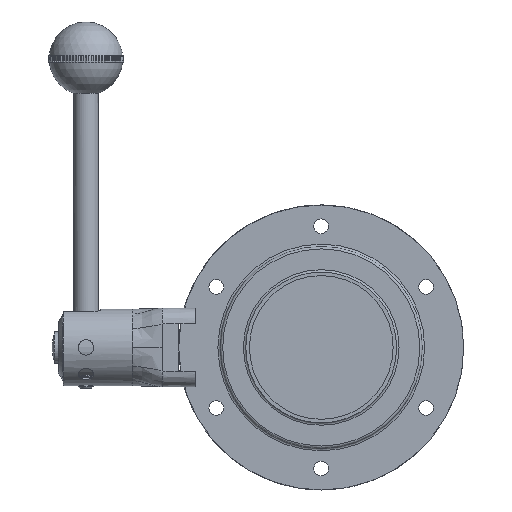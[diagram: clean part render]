
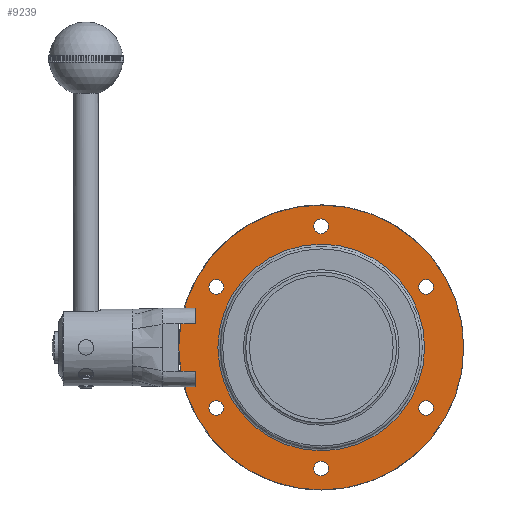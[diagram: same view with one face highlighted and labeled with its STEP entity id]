
A CAD part, left-side view. The second image highlights one B-rep face of the part: STEP entity #9239.
In plain terms, the highlighted planar face has unit normal (-1, 0, 0) as drawn and (1, 0, 0) by its records, which use the part's own axes.
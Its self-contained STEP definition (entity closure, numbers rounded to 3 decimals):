
#1457=FACE_BOUND('',#2609,.T.);
#1458=FACE_BOUND('',#2610,.T.);
#1459=FACE_BOUND('',#2611,.T.);
#1460=FACE_BOUND('',#2612,.T.);
#1461=FACE_BOUND('',#2613,.T.);
#1462=FACE_BOUND('',#2614,.T.);
#1463=FACE_BOUND('',#2615,.T.);
#1985=FACE_OUTER_BOUND('',#2608,.T.);
#2608=EDGE_LOOP('',(#7930));
#2609=EDGE_LOOP('',(#7931));
#2610=EDGE_LOOP('',(#7932));
#2611=EDGE_LOOP('',(#7933));
#2612=EDGE_LOOP('',(#7934));
#2613=EDGE_LOOP('',(#7935));
#2614=EDGE_LOOP('',(#7936));
#2615=EDGE_LOOP('',(#7937));
#3179=CIRCLE('',#10360,60.);
#3190=CIRCLE('',#10375,3.1);
#3191=CIRCLE('',#10377,3.1);
#3192=CIRCLE('',#10379,3.1);
#3193=CIRCLE('',#10381,3.1);
#3194=CIRCLE('',#10383,3.1);
#3195=CIRCLE('',#10385,3.1);
#3196=CIRCLE('',#10387,43.5);
#4043=VERTEX_POINT('',#26582);
#4052=VERTEX_POINT('',#26607);
#4053=VERTEX_POINT('',#26611);
#4054=VERTEX_POINT('',#26615);
#4055=VERTEX_POINT('',#26619);
#4056=VERTEX_POINT('',#26623);
#4057=VERTEX_POINT('',#26627);
#4058=VERTEX_POINT('',#26631);
#5329=EDGE_CURVE('',#4043,#4043,#3179,.T.);
#5342=EDGE_CURVE('',#4052,#4052,#3190,.T.);
#5344=EDGE_CURVE('',#4053,#4053,#3191,.T.);
#5346=EDGE_CURVE('',#4054,#4054,#3192,.T.);
#5348=EDGE_CURVE('',#4055,#4055,#3193,.T.);
#5350=EDGE_CURVE('',#4056,#4056,#3194,.T.);
#5352=EDGE_CURVE('',#4057,#4057,#3195,.T.);
#5353=EDGE_CURVE('',#4058,#4058,#3196,.T.);
#7930=ORIENTED_EDGE('',*,*,#5329,.T.);
#7931=ORIENTED_EDGE('',*,*,#5342,.T.);
#7932=ORIENTED_EDGE('',*,*,#5344,.T.);
#7933=ORIENTED_EDGE('',*,*,#5346,.T.);
#7934=ORIENTED_EDGE('',*,*,#5348,.T.);
#7935=ORIENTED_EDGE('',*,*,#5350,.T.);
#7936=ORIENTED_EDGE('',*,*,#5352,.T.);
#7937=ORIENTED_EDGE('',*,*,#5353,.F.);
#8317=PLANE('',#10386);
#9239=ADVANCED_FACE('',(#1985,#1457,#1458,#1459,#1460,#1461,#1462,#1463),
#8317,.T.);
#10360=AXIS2_PLACEMENT_3D('',#26583,#12892,#12893);
#10375=AXIS2_PLACEMENT_3D('',#26609,#12924,#12925);
#10377=AXIS2_PLACEMENT_3D('',#26613,#12929,#12930);
#10379=AXIS2_PLACEMENT_3D('',#26617,#12934,#12935);
#10381=AXIS2_PLACEMENT_3D('',#26621,#12939,#12940);
#10383=AXIS2_PLACEMENT_3D('',#26625,#12944,#12945);
#10385=AXIS2_PLACEMENT_3D('',#26629,#12949,#12950);
#10386=AXIS2_PLACEMENT_3D('',#26630,#12951,#12952);
#10387=AXIS2_PLACEMENT_3D('',#26632,#12953,#12954);
#12892=DIRECTION('center_axis',(1.,0.,0.));
#12893=DIRECTION('ref_axis',(0.,0.,-1.));
#12924=DIRECTION('center_axis',(-1.,0.,0.));
#12925=DIRECTION('ref_axis',(0.,0.866,0.5));
#12929=DIRECTION('center_axis',(-1.,0.,0.));
#12930=DIRECTION('ref_axis',(0.,0.866,-0.5));
#12934=DIRECTION('center_axis',(-1.,0.,0.));
#12935=DIRECTION('ref_axis',(0.,0.,-1.));
#12939=DIRECTION('center_axis',(-1.,0.,0.));
#12940=DIRECTION('ref_axis',(0.,-0.866,-0.5));
#12944=DIRECTION('center_axis',(-1.,0.,0.));
#12945=DIRECTION('ref_axis',(0.,-0.866,0.5));
#12949=DIRECTION('center_axis',(-1.,0.,0.));
#12950=DIRECTION('ref_axis',(0.,0.,1.));
#12951=DIRECTION('center_axis',(1.,0.,0.));
#12952=DIRECTION('ref_axis',(0.,0.,-1.));
#12953=DIRECTION('center_axis',(1.,0.,0.));
#12954=DIRECTION('ref_axis',(0.,0.,-1.));
#26582=CARTESIAN_POINT('',(10.,-60.,0.));
#26583=CARTESIAN_POINT('Origin',(10.,0.,0.));
#26607=CARTESIAN_POINT('',(10.,41.483,23.95));
#26609=CARTESIAN_POINT('Origin',(10.,44.167,25.5));
#26611=CARTESIAN_POINT('',(10.,41.483,-23.95));
#26613=CARTESIAN_POINT('Origin',(10.,44.167,-25.5));
#26615=CARTESIAN_POINT('',(10.,0.,-47.9));
#26617=CARTESIAN_POINT('Origin',(10.,0.,-51.));
#26619=CARTESIAN_POINT('',(10.,-41.483,-23.95));
#26621=CARTESIAN_POINT('Origin',(10.,-44.167,-25.5));
#26623=CARTESIAN_POINT('',(10.,-41.483,23.95));
#26625=CARTESIAN_POINT('Origin',(10.,-44.167,25.5));
#26627=CARTESIAN_POINT('',(10.,0.,47.9));
#26629=CARTESIAN_POINT('Origin',(10.,0.,51.));
#26630=CARTESIAN_POINT('Origin',(10.,43.5,0.));
#26631=CARTESIAN_POINT('',(10.,0.,43.5));
#26632=CARTESIAN_POINT('Origin',(10.,0.,0.));
